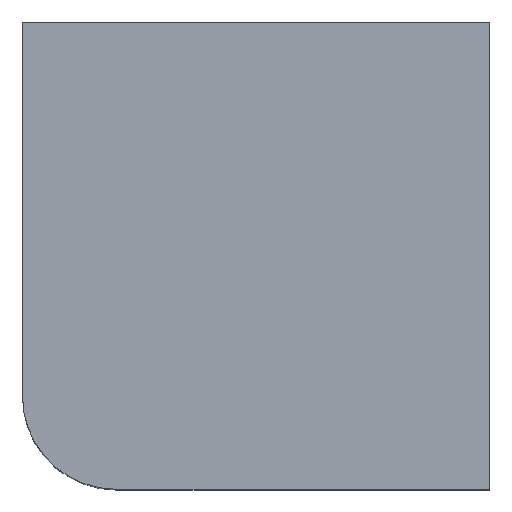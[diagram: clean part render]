
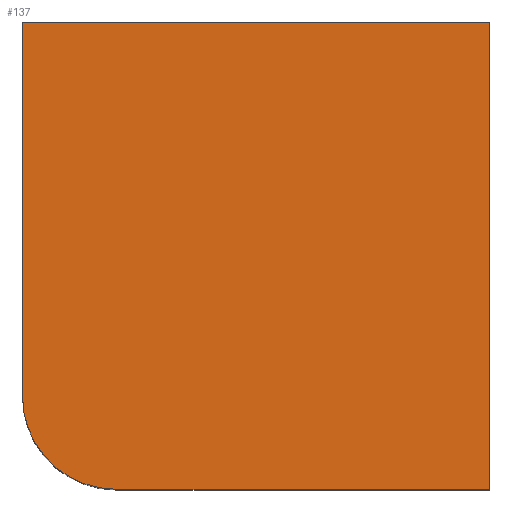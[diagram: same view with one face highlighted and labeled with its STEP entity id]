
A CAD part, top view. The second image highlights one B-rep face of the part: STEP entity #137.
In plain terms, the highlighted planar face has unit normal (0, 0, 1).
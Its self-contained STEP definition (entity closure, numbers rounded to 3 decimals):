
#21 = EDGE_CURVE('',#22,#24,#26,.T.);
#22 = VERTEX_POINT('',#23);
#23 = CARTESIAN_POINT('',(0.,2.,10.));
#24 = VERTEX_POINT('',#25);
#25 = CARTESIAN_POINT('',(0.,10.,10.));
#26 = SURFACE_CURVE('',#27,(#31,#43),.PCURVE_S1.);
#27 = LINE('',#28,#29);
#28 = CARTESIAN_POINT('',(0.,0.,10.));
#29 = VECTOR('',#30,1.);
#30 = DIRECTION('',(-0.,1.,0.));
#31 = PCURVE('',#32,#37);
#32 = PLANE('',#33);
#33 = AXIS2_PLACEMENT_3D('',#34,#35,#36);
#34 = CARTESIAN_POINT('',(0.,0.,0.));
#35 = DIRECTION('',(1.,0.,-0.));
#36 = DIRECTION('',(0.,0.,1.));
#37 = DEFINITIONAL_REPRESENTATION('',(#38),#42);
#38 = LINE('',#39,#40);
#39 = CARTESIAN_POINT('',(10.,0.));
#40 = VECTOR('',#41,1.);
#41 = DIRECTION('',(0.,-1.));
#42 = ( GEOMETRIC_REPRESENTATION_CONTEXT(2) 
PARAMETRIC_REPRESENTATION_CONTEXT() REPRESENTATION_CONTEXT('2D SPACE',''
  ) );
#43 = PCURVE('',#44,#49);
#44 = PLANE('',#45);
#45 = AXIS2_PLACEMENT_3D('',#46,#47,#48);
#46 = CARTESIAN_POINT('',(0.,0.,10.));
#47 = DIRECTION('',(0.,0.,1.));
#48 = DIRECTION('',(1.,0.,-0.));
#49 = DEFINITIONAL_REPRESENTATION('',(#50),#54);
#50 = LINE('',#51,#52);
#51 = CARTESIAN_POINT('',(0.,0.));
#52 = VECTOR('',#53,1.);
#53 = DIRECTION('',(0.,1.));
#54 = ( GEOMETRIC_REPRESENTATION_CONTEXT(2) 
PARAMETRIC_REPRESENTATION_CONTEXT() REPRESENTATION_CONTEXT('2D SPACE',''
  ) );
#72 = CYLINDRICAL_SURFACE('',#73,2.);
#73 = AXIS2_PLACEMENT_3D('',#74,#75,#76);
#74 = CARTESIAN_POINT('',(2.,2.,0.));
#75 = DIRECTION('',(0.,0.,1.));
#76 = DIRECTION('',(-1.,-0.,0.));
#126 = PLANE('',#127);
#127 = AXIS2_PLACEMENT_3D('',#128,#129,#130);
#128 = CARTESIAN_POINT('',(0.,10.,0.));
#129 = DIRECTION('',(-0.,1.,0.));
#130 = DIRECTION('',(0.,0.,1.));
#137 = ADVANCED_FACE('',(#138),#44,.T.);
#138 = FACE_BOUND('',#139,.T.);
#139 = EDGE_LOOP('',(#140,#141,#165,#193,#221));
#140 = ORIENTED_EDGE('',*,*,#21,.F.);
#141 = ORIENTED_EDGE('',*,*,#142,.T.);
#142 = EDGE_CURVE('',#22,#143,#145,.T.);
#143 = VERTEX_POINT('',#144);
#144 = CARTESIAN_POINT('',(2.,0.,10.));
#145 = SURFACE_CURVE('',#146,(#151,#158),.PCURVE_S1.);
#146 = CIRCLE('',#147,2.);
#147 = AXIS2_PLACEMENT_3D('',#148,#149,#150);
#148 = CARTESIAN_POINT('',(2.,2.,10.));
#149 = DIRECTION('',(0.,0.,1.));
#150 = DIRECTION('',(0.,-1.,0.));
#151 = PCURVE('',#44,#152);
#152 = DEFINITIONAL_REPRESENTATION('',(#153),#157);
#153 = CIRCLE('',#154,2.);
#154 = AXIS2_PLACEMENT_2D('',#155,#156);
#155 = CARTESIAN_POINT('',(2.,2.));
#156 = DIRECTION('',(0.,-1.));
#157 = ( GEOMETRIC_REPRESENTATION_CONTEXT(2) 
PARAMETRIC_REPRESENTATION_CONTEXT() REPRESENTATION_CONTEXT('2D SPACE',''
  ) );
#158 = PCURVE('',#72,#159);
#159 = DEFINITIONAL_REPRESENTATION('',(#160),#164);
#160 = LINE('',#161,#162);
#161 = CARTESIAN_POINT('',(-4.712,10.));
#162 = VECTOR('',#163,1.);
#163 = DIRECTION('',(1.,0.));
#164 = ( GEOMETRIC_REPRESENTATION_CONTEXT(2) 
PARAMETRIC_REPRESENTATION_CONTEXT() REPRESENTATION_CONTEXT('2D SPACE',''
  ) );
#165 = ORIENTED_EDGE('',*,*,#166,.T.);
#166 = EDGE_CURVE('',#143,#167,#169,.T.);
#167 = VERTEX_POINT('',#168);
#168 = CARTESIAN_POINT('',(10.,0.,10.));
#169 = SURFACE_CURVE('',#170,(#174,#181),.PCURVE_S1.);
#170 = LINE('',#171,#172);
#171 = CARTESIAN_POINT('',(0.,0.,10.));
#172 = VECTOR('',#173,1.);
#173 = DIRECTION('',(1.,0.,-0.));
#174 = PCURVE('',#44,#175);
#175 = DEFINITIONAL_REPRESENTATION('',(#176),#180);
#176 = LINE('',#177,#178);
#177 = CARTESIAN_POINT('',(0.,0.));
#178 = VECTOR('',#179,1.);
#179 = DIRECTION('',(1.,0.));
#180 = ( GEOMETRIC_REPRESENTATION_CONTEXT(2) 
PARAMETRIC_REPRESENTATION_CONTEXT() REPRESENTATION_CONTEXT('2D SPACE',''
  ) );
#181 = PCURVE('',#182,#187);
#182 = PLANE('',#183);
#183 = AXIS2_PLACEMENT_3D('',#184,#185,#186);
#184 = CARTESIAN_POINT('',(0.,0.,0.));
#185 = DIRECTION('',(-0.,1.,0.));
#186 = DIRECTION('',(0.,0.,1.));
#187 = DEFINITIONAL_REPRESENTATION('',(#188),#192);
#188 = LINE('',#189,#190);
#189 = CARTESIAN_POINT('',(10.,0.));
#190 = VECTOR('',#191,1.);
#191 = DIRECTION('',(0.,1.));
#192 = ( GEOMETRIC_REPRESENTATION_CONTEXT(2) 
PARAMETRIC_REPRESENTATION_CONTEXT() REPRESENTATION_CONTEXT('2D SPACE',''
  ) );
#193 = ORIENTED_EDGE('',*,*,#194,.T.);
#194 = EDGE_CURVE('',#167,#195,#197,.T.);
#195 = VERTEX_POINT('',#196);
#196 = CARTESIAN_POINT('',(10.,10.,10.));
#197 = SURFACE_CURVE('',#198,(#202,#209),.PCURVE_S1.);
#198 = LINE('',#199,#200);
#199 = CARTESIAN_POINT('',(10.,0.,10.));
#200 = VECTOR('',#201,1.);
#201 = DIRECTION('',(-0.,1.,0.));
#202 = PCURVE('',#44,#203);
#203 = DEFINITIONAL_REPRESENTATION('',(#204),#208);
#204 = LINE('',#205,#206);
#205 = CARTESIAN_POINT('',(10.,0.));
#206 = VECTOR('',#207,1.);
#207 = DIRECTION('',(0.,1.));
#208 = ( GEOMETRIC_REPRESENTATION_CONTEXT(2) 
PARAMETRIC_REPRESENTATION_CONTEXT() REPRESENTATION_CONTEXT('2D SPACE',''
  ) );
#209 = PCURVE('',#210,#215);
#210 = PLANE('',#211);
#211 = AXIS2_PLACEMENT_3D('',#212,#213,#214);
#212 = CARTESIAN_POINT('',(10.,0.,0.));
#213 = DIRECTION('',(1.,0.,-0.));
#214 = DIRECTION('',(0.,0.,1.));
#215 = DEFINITIONAL_REPRESENTATION('',(#216),#220);
#216 = LINE('',#217,#218);
#217 = CARTESIAN_POINT('',(10.,0.));
#218 = VECTOR('',#219,1.);
#219 = DIRECTION('',(0.,-1.));
#220 = ( GEOMETRIC_REPRESENTATION_CONTEXT(2) 
PARAMETRIC_REPRESENTATION_CONTEXT() REPRESENTATION_CONTEXT('2D SPACE',''
  ) );
#221 = ORIENTED_EDGE('',*,*,#222,.F.);
#222 = EDGE_CURVE('',#24,#195,#223,.T.);
#223 = SURFACE_CURVE('',#224,(#228,#235),.PCURVE_S1.);
#224 = LINE('',#225,#226);
#225 = CARTESIAN_POINT('',(0.,10.,10.));
#226 = VECTOR('',#227,1.);
#227 = DIRECTION('',(1.,0.,-0.));
#228 = PCURVE('',#44,#229);
#229 = DEFINITIONAL_REPRESENTATION('',(#230),#234);
#230 = LINE('',#231,#232);
#231 = CARTESIAN_POINT('',(0.,10.));
#232 = VECTOR('',#233,1.);
#233 = DIRECTION('',(1.,0.));
#234 = ( GEOMETRIC_REPRESENTATION_CONTEXT(2) 
PARAMETRIC_REPRESENTATION_CONTEXT() REPRESENTATION_CONTEXT('2D SPACE',''
  ) );
#235 = PCURVE('',#126,#236);
#236 = DEFINITIONAL_REPRESENTATION('',(#237),#241);
#237 = LINE('',#238,#239);
#238 = CARTESIAN_POINT('',(10.,0.));
#239 = VECTOR('',#240,1.);
#240 = DIRECTION('',(0.,1.));
#241 = ( GEOMETRIC_REPRESENTATION_CONTEXT(2) 
PARAMETRIC_REPRESENTATION_CONTEXT() REPRESENTATION_CONTEXT('2D SPACE',''
  ) );
